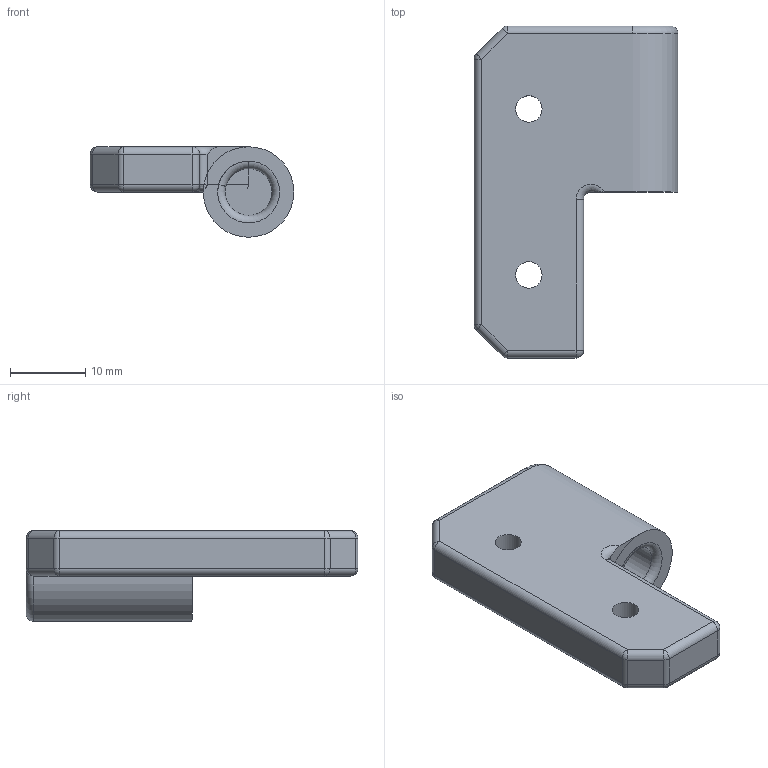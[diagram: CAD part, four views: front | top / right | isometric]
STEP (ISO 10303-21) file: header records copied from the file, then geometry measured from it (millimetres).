
FILE_DESCRIPTION(('STEP AP242'), '1');
FILE_NAME('Òåëî 2', '', ('UNSPECIFIED'), ('UNSPECIFIED'), 'C3D Converter', 'C3D Toolkit', '');
FILE_SCHEMA(('AP242_MANAGED_MODEL_BASED_3D_ENGINEERING_MIM_LF { 1 0 10303 442 1 1 4 }'));
Length unit declared in the file: millimetre
Bounding box: 27 x 44 x 12 mm (x, y, z)
Volume: 6026.6 mm3; surface area: 3664.8 mm2
Topology: 2 solids, 2 shells, 62 faces, 137 edges, 68 vertices
Faces by surface type: cylinder 26, plane 14, sphere 11, torus 10, bspline 1
Full cylindrical faces by diameter (mm): 3.5 x2, 6.2 x1, 12 x1
Entity records: 1745 total; most frequent: CARTESIAN_POINT 440, DIRECTION 286, ORIENTED_EDGE 226, AXIS2_PLACEMENT_3D 119, EDGE_CURVE 113, EDGE_LOOP 79, VERTEX_POINT 68, ADVANCED_FACE 62
